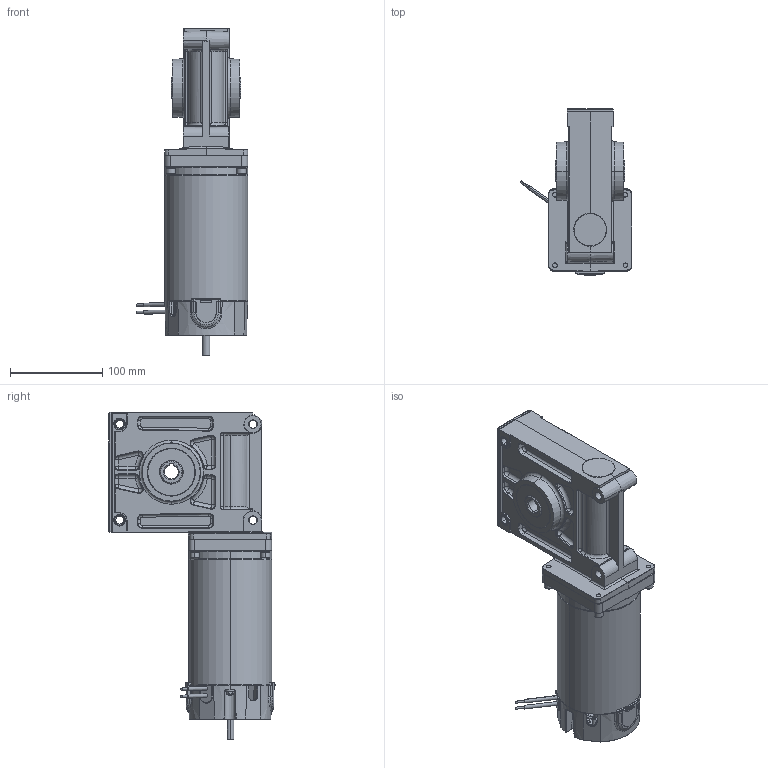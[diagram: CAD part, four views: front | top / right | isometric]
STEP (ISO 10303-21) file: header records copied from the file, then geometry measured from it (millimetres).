
FILE_DESCRIPTION (( 'STEP AP214' ), '1' );
FILE_NAME ('BRx90-75-GB9.STEP', '2023-12-13T15:53:38', ( '' ), ( '' ), 'SwSTEP 2.0', 'SolidWorks 2023', '' );
FILE_SCHEMA (( 'AUTOMOTIVE_DESIGN' ));
Length unit declared in the file: millimetre
Products named in the file (1): BRx90-75-GB9
Bounding box: 120.71 x 179.81 x 354.95 mm (x, y, z)
Volume: 960043.2 mm3; surface area: 406647.3 mm2
Topology: 49 solids, 49 shells, 3024 faces, 7055 edges, 4134 vertices
Faces by surface type: cylinder 951, plane 750, cone 461, torus 454, bspline 295, sphere 113
Entity records: 129233 total; most frequent: CARTESIAN_POINT 28284, DIRECTION 14647, ORIENTED_EDGE 13800, EDGE_CURVE 6900, AXIS2_PLACEMENT_3D 5999, VERTEX_POINT 4134, EDGE_LOOP 3296, CIRCLE 3269
